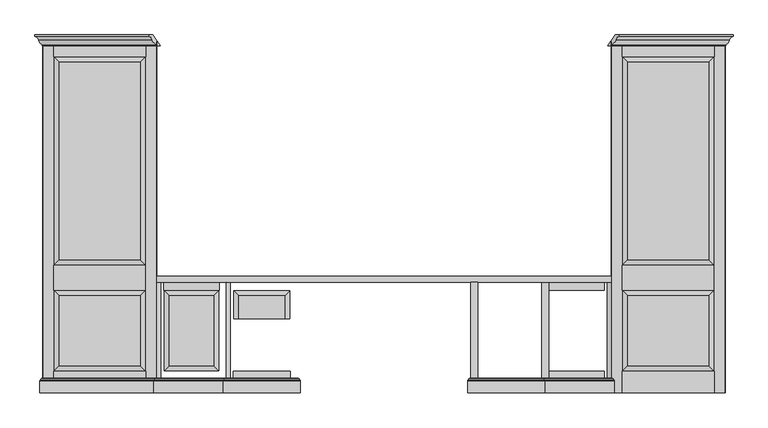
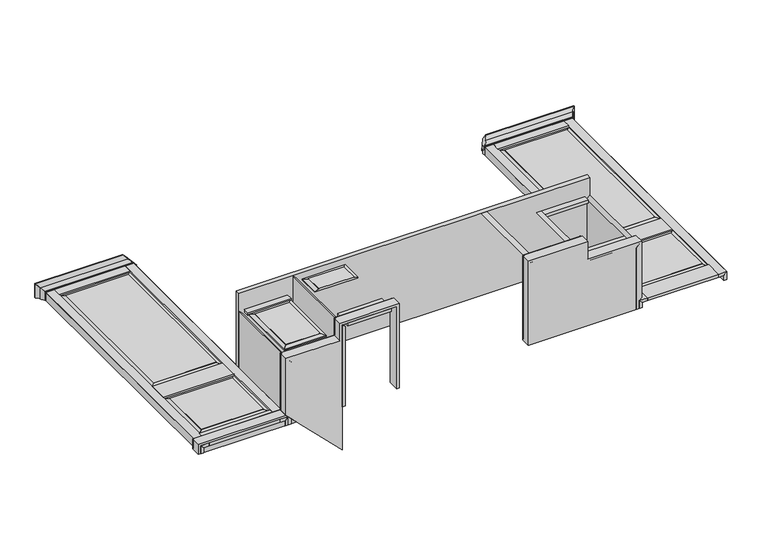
"""IFC4 building model written with IfcOpenShell, lengths in millimetres: proxy geometry, CCN^BRIGHTON_L2-C STEPPED WALL-SOLID ASSEMBLY."""

from ifc_helpers import new_model, si_unit, frame, origin, place, context, project, spatial, polyline, circle_curve, ellipse_curve, outline, extrude, faceted_brep, source, transform, mapped, element, save
from ifc_brep_helpers import plane_surface, cylinder_surface, revolved_surface, advanced_brep


def generic_models_a89a7235(model_context):
    return source(origin(), model_context, "Body", "SolidModel", [
        advanced_brep(
        [(655.8611209, -1648.3762284, -442.4536526), (655.8611209, -1648.3762284, -1534.6536526), (205.0111209, -1648.3762284, -1083.8036526), (205.0111209, -1648.3762284, -588.5036526), (649.5111209, -1648.3762284, -588.5036526), (649.5111209, -1648.3762284, -436.1036526), (1113.0611209, -1648.3762284, -436.1036526), (1113.0611209, -1648.3762284, -1160.0036526), (1106.7111209, -1648.3762284, -1160.0036526), (1106.7111209, -1648.3762284, -442.4536526), (655.8611209, -1743.6262284, -1534.6536526), (192.3111209, -1743.6262284, -1071.1036526), (192.3111209, -1664.2512284, -1071.1036526), (198.6611209, -1657.9012284, -1077.4536526), (205.0111209, -1651.5512284, -1083.8036526), (192.3111209, -1664.2512284, -575.8036526), (198.6611209, -1657.9012284, -582.1536526), (192.3111209, -1743.6262284, -575.8036526), (655.8611209, -1743.6262284, -442.4536526), (1106.7111209, -1743.6262284, -442.4536526), (1106.7111209, -1743.6262284, -1160.0036526), (1125.7611209, -1743.6262284, -1160.0036526), (1125.7611209, -1743.6262284, -423.4036526), (636.8111209, -1743.6262284, -423.4036526), (636.8111209, -1743.6262284, -575.8036526), (1113.0611209, -1651.5512284, -436.1036526), (1113.0611209, -1651.5512284, -1160.0036526), (1119.4111209, -1657.9012284, -429.7536526), (1119.4111209, -1657.9012284, -1160.0036526), (1125.7611209, -1664.2512284, -423.4036526), (1125.7611209, -1664.2512284, -1160.0036526), (649.5111209, -1651.5512284, -436.1036526), (643.1611209, -1657.9012284, -429.7536526), (636.8111209, -1664.2512284, -423.4036526), (649.5111209, -1651.5512284, -588.5036526), (643.1611209, -1657.9012284, -582.1536526), (636.8111209, -1664.2512284, -575.8036526), (205.0111209, -1651.5512284, -588.5036526)],
        [
            (0, 1),
            (1, 2),
            (2, 3),
            (3, 4),
            (4, 5),
            (5, 6),
            (6, 7),
            (7, 8),
            (8, 9),
            (9, 0),
            (1, 10),
            (10, 11),
            (11, 12),
            (12, 13, ellipse_curve(frame((192.3111209, -1657.9012284, -1071.1036526), z_axis=(0.7071067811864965, 0.0, 0.7071067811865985), x_axis=(-0.7071067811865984, 0.0, 0.7071067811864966)), 8.9802561, 6.35)),
            (13, 14, ellipse_curve(frame((205.0111209, -1657.9012284, -1083.8036526), z_axis=(-0.7071067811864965, 0.0, -0.7071067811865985), x_axis=(-0.7071067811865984, 0.0, 0.7071067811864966)), 8.9802561, 6.35)),
            (14, 2),
            (12, 15),
            (15, 16, ellipse_curve(frame((192.3111209, -1657.9012284, -575.8036526), z_axis=(0.7071067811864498, 0.0, 0.7071067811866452), x_axis=(-0.707106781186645, 0.0, 0.70710678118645)), 8.9802561, 6.35)),
            (16, 13),
            (11, 17),
            (17, 15),
            (10, 18),
            (18, 19),
            (19, 20),
            (20, 21),
            (21, 22),
            (22, 23),
            (23, 24),
            (24, 17),
            (6, 25),
            (25, 26),
            (26, 7),
            (25, 27, ellipse_curve(frame((1113.0611209, -1657.9012284, -436.1036526), z_axis=(0.7071067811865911, 0.0, -0.7071067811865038), x_axis=(-0.7071067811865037, 0.0, -0.7071067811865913)), 8.9802561, 6.35)),
            (27, 28),
            (28, 26, circle_curve(frame((1113.0611209, -1657.9012284, -1160.0036526), z_axis=(0.0, 0.0, 1.0), x_axis=(-1.0, 0.0, 0.0)), 6.35)),
            (27, 29, ellipse_curve(frame((1125.7611209, -1657.9012284, -423.4036526), z_axis=(-0.7071067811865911, 0.0, 0.7071067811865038), x_axis=(-0.7071067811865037, 0.0, -0.7071067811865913)), 8.9802561, 6.35)),
            (29, 30),
            (30, 28, circle_curve(frame((1125.7611209, -1657.9012284, -1160.0036526), z_axis=(0.0, 0.0, -1.0), x_axis=(-1.0, 0.0, 0.0)), 6.35)),
            (5, 31),
            (31, 25),
            (31, 32, ellipse_curve(frame((649.5111209, -1657.9012284, -436.1036526), z_axis=(0.7071067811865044, 0.0, 0.7071067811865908), x_axis=(0.7071067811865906, 0.0, -0.7071067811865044)), 8.9802561, 6.35)),
            (32, 27),
            (32, 33, ellipse_curve(frame((636.8111209, -1657.9012284, -423.4036526), z_axis=(-0.7071067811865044, 0.0, -0.7071067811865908), x_axis=(0.7071067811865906, 0.0, -0.7071067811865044)), 8.9802561, 6.35)),
            (33, 29),
            (4, 34),
            (34, 31),
            (34, 35, ellipse_curve(frame((649.5111209, -1657.9012284, -588.5036526), z_axis=(0.70710678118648, 0.0, 0.7071067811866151), x_axis=(-0.7071067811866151, 0.0, 0.70710678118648)), 8.9802561, 6.35)),
            (35, 32),
            (35, 36, ellipse_curve(frame((636.8111209, -1657.9012284, -575.8036526), z_axis=(-0.70710678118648, 0.0, -0.7071067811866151), x_axis=(-0.7071067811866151, 0.0, 0.70710678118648)), 8.9802561, 6.35)),
            (36, 33),
            (3, 37),
            (37, 34),
            (37, 16, ellipse_curve(frame((205.0111209, -1657.9012284, -588.5036526), z_axis=(0.7071067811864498, 0.0, 0.7071067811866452), x_axis=(0.7071067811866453, 0.0, -0.7071067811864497)), 8.9802561, 6.35)),
            (16, 35),
            (15, 36),
            (14, 37),
            (30, 21),
            (20, 8),
            (29, 22),
            (33, 23),
            (36, 24),
            (0, 18),
            (9, 19),
        ],
        [
            plane_surface(frame((659.0361209, -1648.3762284, -791.7036526), z_axis=(0.0, 1.0, 0.0), x_axis=(0.0, 0.0, 1.0))),
            plane_surface(frame((201.8361209, -1743.6262284, -1080.6286526), z_axis=(-0.7071067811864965, 0.0, -0.7071067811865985), x_axis=(-0.7071067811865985, 0.0, 0.7071067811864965))),
            revolved_surface(polyline([(198.6611209, -1657.9012284, -569.4536526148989), (198.6611209, -1657.9012284, -1077.4536526)]), (192.3111209, -1657.9012284, -1090.1536526), (0.0, 0.0, 1.0)),
            plane_surface(frame((192.3111209, -1743.6262284, -1090.1536526), z_axis=(-1.0, 0.0, 0.0), x_axis=(0.0, 0.0, 1.0))),
            plane_surface(frame((659.0361209, -1743.6262284, -791.7036526), z_axis=(0.0, -1.0, 0.0), x_axis=(0.0, 0.0, -1.0))),
            plane_surface(frame((1113.0611209, -1651.5512284, -436.1036526), z_axis=(1.0, 0.0, 0.0), x_axis=(0.0, 1.0, 0.0))),
            cylinder_surface(frame((1113.0611209, -1657.9012284, -436.1036526), z_axis=(0.0, 0.0, -1.0), x_axis=(-1.0, 0.0, 0.0)), 6.35),
            revolved_surface(polyline([(1119.4111209, -1657.9012284, -1160.0036526), (1119.4111209, -1657.9012284, -417.0536526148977)]), (1125.7611209, -1657.9012284, -423.4036526), (0.0, 0.0, -1.0)),
            plane_surface(frame((649.5111209, -1651.5512284, -436.1036526), z_axis=(0.0, 0.0, 1.0), x_axis=(0.0, 1.0, 0.0))),
            cylinder_surface(frame((649.5111209, -1657.9012284, -436.1036526), z_axis=(1.0, 0.0, 0.0), x_axis=(0.0, 0.0, -1.0)), 6.35),
            revolved_surface(polyline([(1132.1111208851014, -1657.9012284, -429.7536526), (630.4611209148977, -1657.9012284, -429.7536526)]), (636.8111209, -1657.9012284, -423.4036526), (1.0, 0.0, 0.0)),
            plane_surface(frame((649.5111209, -1651.5512284, -588.5036526), z_axis=(-1.0, 0.0, 0.0), x_axis=(0.0, 1.0, 0.0))),
            cylinder_surface(frame((649.5111209, -1657.9012284, -588.5036526), z_axis=(0.0, 0.0, 1.0), x_axis=(1.0, 0.0, 0.0)), 6.35),
            revolved_surface(polyline([(643.1611209, -1657.9012284, -417.0536526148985), (643.1611209, -1657.9012284, -582.1536526)]), (636.8111209, -1657.9012284, -575.8036526), (0.0, 0.0, 1.0)),
            plane_surface(frame((205.0111209, -1651.5512284, -588.5036526), z_axis=(0.0, 0.0, 1.0), x_axis=(0.0, 1.0, 0.0))),
            cylinder_surface(frame((205.0111209, -1657.9012284, -588.5036526), z_axis=(1.0, 0.0, 0.0), x_axis=(0.0, 0.0, -1.0)), 6.35),
            revolved_surface(polyline([(643.1611209, -1657.9012284, -582.1536526), (185.96112091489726, -1657.9012284, -582.1536526)]), (192.3111209, -1657.9012284, -575.8036526), (1.0, 0.0, 0.0)),
            plane_surface(frame((205.0111209, -1651.5512284, -1090.1536526), z_axis=(-1.0, 0.0, 0.0), x_axis=(0.0, 1.0, 0.0))),
            cylinder_surface(frame((205.0111209, -1657.9012284, -1090.1536526), z_axis=(0.0, 0.0, 1.0), x_axis=(1.0, 0.0, 0.0)), 6.35),
            plane_surface(frame((1125.7611209, -1743.6262284, -1160.0036526), z_axis=(0.0, 0.0, -1.0), x_axis=(-1.0, 0.0, 0.0))),
            plane_surface(frame((1125.7611209, -1743.6262284, -423.4036526), z_axis=(1.0, 0.0, 0.0), x_axis=(0.0, 0.0, -1.0))),
            plane_surface(frame((636.8111209, -1743.6262284, -423.4036526), z_axis=(0.0, 0.0, 1.0), x_axis=(1.0, 0.0, 0.0))),
            plane_surface(frame((636.8111209, -1743.6262284, -575.8036526), z_axis=(-1.0, 0.0, 0.0), x_axis=(0.0, 0.0, 1.0))),
            plane_surface(frame((192.3111209, -1743.6262284, -575.8036526), z_axis=(0.0, 0.0, 1.0), x_axis=(1.0, 0.0, 0.0))),
            plane_surface(frame((655.8611209, -1743.6262284, -442.4536526), z_axis=(1.0, 0.0, 0.0), x_axis=(0.0, 0.0, -1.0))),
            plane_surface(frame((1106.7111209, -1743.6262284, -442.4536526), z_axis=(0.0, 0.0, -1.0), x_axis=(-1.0, 0.0, 0.0))),
            plane_surface(frame((1106.7111209, -1743.6262284, -1160.0036526), z_axis=(-1.0, 0.0, 0.0), x_axis=(0.0, 0.0, 1.0))),
        ],
        [
            (0, [[1, 2, 3, 4, 5, 6, 7, 8, 9, 10]]),
            (1, [[-2, 11, 12, 13, 14, 15, 16]]),
            (2, [[-14, 17, 18, 19]]),
            (3, [[-13, 20, 21, -17]]),
            (4, [[22, 23, 24, 25, 26, 27, 28, 29, -20, -12]]),
            (5, [[30, 31, 32, -7]]),
            (6, [[33, 34, 35, -31]]),
            (7, [[36, 37, 38, -34]]),
            (8, [[39, 40, -30, -6]]),
            (9, [[41, 42, -33, -40]]),
            (10, [[43, 44, -36, -42]]),
            (11, [[45, 46, -39, -5]]),
            (12, [[47, 48, -41, -46]]),
            (13, [[49, 50, -43, -48]]),
            (14, [[51, 52, -45, -4]]),
            (15, [[53, 54, -47, -52]]),
            (16, [[-18, 55, -49, -54]]),
            (17, [[-16, 56, -51, -3]]),
            (18, [[-15, -19, -53, -56]]),
            (19, [[-32, -35, -38, 57, -25, 58, -8]]),
            (20, [[-37, 59, -26, -57]]),
            (21, [[-44, 60, -27, -59]]),
            (22, [[-50, 61, -28, -60]]),
            (23, [[-55, -21, -29, -61]]),
            (24, [[-1, 62, -22, -11]]),
            (25, [[-23, -62, -10, 63]]),
            (26, [[-24, -63, -9, -58]]),
        ],
    ),
        advanced_brep(
        [(3119.6611209, -1657.9012284, -1077.4536526), (3126.0111209, -1664.2512284, -1071.1036526), (3126.0111209, -1743.6262284, -1071.1036526), (3106.9611209, -1743.6262284, -1090.1536526), (3106.9611209, -1648.3762284, -1090.1536526), (3113.3111209, -1648.3762284, -1083.8036526), (3113.3111209, -1651.5512284, -1083.8036526), (3113.3111209, -1651.5512284, -588.5036526), (3119.6611209, -1657.9012284, -582.1536526), (3113.3111209, -1648.3762284, -588.5036526), (3106.9611209, -1648.3762284, -1160.0036526), (2205.2611209, -1648.3762284, -1160.0036526), (2205.2611209, -1648.3762284, -436.1036526), (2668.8111209, -1648.3762284, -436.1036526), (2668.8111209, -1648.3762284, -588.5036526), (3126.0111209, -1664.2512284, -575.8036526), (2668.8111209, -1651.5512284, -588.5036526), (2675.1611209, -1657.9012284, -582.1536526), (2681.5111209, -1664.2512284, -575.8036526), (2668.8111209, -1651.5512284, -436.1036526), (2675.1611209, -1657.9012284, -429.7536526), (2681.5111209, -1664.2512284, -423.4036526), (2205.2611209, -1651.5512284, -436.1036526), (2198.9111209, -1657.9012284, -429.7536526), (2192.5611209, -1664.2512284, -423.4036526), (2205.2611209, -1651.5512284, -1160.0036526), (2198.9111209, -1657.9012284, -1160.0036526), (2192.5611209, -1664.2512284, -1160.0036526), (3126.0111209, -1743.6262284, -575.8036526), (2681.5111209, -1743.6262284, -575.8036526), (2681.5111209, -1743.6262284, -423.4036526), (2192.5611209, -1743.6262284, -423.4036526), (2192.5611209, -1743.6262284, -1160.0036526), (3106.9611209, -1743.6262284, -1160.0036526)],
        [
            (0, 1, ellipse_curve(frame((3126.0111209, -1657.9012284, -1071.1036526), z_axis=(-0.7071067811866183, 0.0, 0.7071067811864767), x_axis=(-0.7071067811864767, 0.0, -0.7071067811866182)), 8.9802561, 6.35)),
            (1, 2),
            (2, 3),
            (3, 4),
            (4, 5),
            (5, 6),
            (6, 0, ellipse_curve(frame((3113.3111209, -1657.9012284, -1083.8036526), z_axis=(0.7071067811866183, 0.0, -0.7071067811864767), x_axis=(-0.7071067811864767, 0.0, -0.7071067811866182)), 8.9802561, 6.35)),
            (6, 7),
            (7, 8, ellipse_curve(frame((3113.3111209, -1657.9012284, -588.5036526), z_axis=(0.7071067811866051, 0.0, -0.7071067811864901), x_axis=(-0.7071067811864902, 0.0, -0.7071067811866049)), 8.9802561, 6.35)),
            (8, 0),
            (5, 9),
            (9, 7),
            (4, 10),
            (10, 11),
            (11, 12),
            (12, 13),
            (13, 14),
            (14, 9),
            (8, 15, ellipse_curve(frame((3126.0111209, -1657.9012284, -575.8036526), z_axis=(-0.7071067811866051, 0.0, 0.7071067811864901), x_axis=(-0.7071067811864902, 0.0, -0.7071067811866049)), 8.9802561, 6.35)),
            (15, 1),
            (16, 17, ellipse_curve(frame((2668.8111209, -1657.9012284, -588.5036526), z_axis=(0.7071067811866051, 0.0, -0.7071067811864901), x_axis=(0.7071067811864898, 0.0, 0.7071067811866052)), 8.9802561, 6.35)),
            (17, 8),
            (7, 16),
            (17, 18, ellipse_curve(frame((2681.5111209, -1657.9012284, -575.8036526), z_axis=(-0.7071067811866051, 0.0, 0.7071067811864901), x_axis=(0.7071067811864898, 0.0, 0.7071067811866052)), 8.9802561, 6.35)),
            (18, 15),
            (14, 16),
            (19, 20, ellipse_curve(frame((2668.8111209, -1657.9012284, -436.1036526), z_axis=(0.7071067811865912, 0.0, -0.7071067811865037), x_axis=(-0.7071067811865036, 0.0, -0.7071067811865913)), 8.9802561, 6.35)),
            (20, 17),
            (16, 19),
            (20, 21, ellipse_curve(frame((2681.5111209, -1657.9012284, -423.4036526), z_axis=(-0.7071067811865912, 0.0, 0.7071067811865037), x_axis=(-0.7071067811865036, 0.0, -0.7071067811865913)), 8.9802561, 6.35)),
            (21, 18),
            (13, 19),
            (22, 23, ellipse_curve(frame((2205.2611209, -1657.9012284, -436.1036526), z_axis=(0.7071067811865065, 0.0, 0.7071067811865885), x_axis=(0.7071067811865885, 0.0, -0.7071067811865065)), 8.9802561, 6.35)),
            (23, 20),
            (19, 22),
            (23, 24, ellipse_curve(frame((2192.5611209, -1657.9012284, -423.4036526), z_axis=(-0.7071067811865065, 0.0, -0.7071067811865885), x_axis=(0.7071067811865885, 0.0, -0.7071067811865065)), 8.9802561, 6.35)),
            (24, 21),
            (12, 22),
            (25, 26, circle_curve(frame((2205.2611209, -1657.9012284, -1160.0036526), z_axis=(0.0, 0.0, 1.0), x_axis=(1.0, 0.0, 0.0)), 6.35)),
            (26, 23),
            (22, 25),
            (26, 27, circle_curve(frame((2192.5611209, -1657.9012284, -1160.0036526), z_axis=(0.0, 0.0, -1.0), x_axis=(1.0, 0.0, 0.0)), 6.35)),
            (27, 24),
            (11, 25),
            (15, 28),
            (28, 2),
            (18, 29),
            (29, 28),
            (21, 30),
            (30, 29),
            (24, 31),
            (31, 30),
            (27, 32),
            (32, 31),
            (10, 33),
            (33, 32),
            (3, 33),
        ],
        [
            plane_surface(frame((3116.4861209, -1743.6262284, -1080.6286526), z_axis=(0.7071067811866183, 0.0, -0.7071067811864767), x_axis=(-0.7071067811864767, 0.0, -0.7071067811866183))),
            cylinder_surface(frame((3113.3111209, -1657.9012284, -588.5036526), z_axis=(0.0, 0.0, -1.0), x_axis=(-1.0, 0.0, 0.0)), 6.35),
            plane_surface(frame((3113.3111209, -1651.5512284, -588.5036526), z_axis=(1.0, 0.0, 0.0), x_axis=(0.0, 1.0, 0.0))),
            plane_surface(frame((2659.2861209, -1648.3762284, -791.7036526), z_axis=(0.0, 1.0, 0.0), x_axis=(0.0, 0.0, 1.0))),
            revolved_surface(polyline([(3119.6611209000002, -1657.9012284, -1077.4536526), (3119.6611209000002, -1657.9012284, -569.4536526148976)]), (3126.0111209, -1657.9012284, -575.8036526), (0.0, 0.0, -1.0)),
            cylinder_surface(frame((2668.8111209, -1657.9012284, -588.5036526), z_axis=(1.0, 0.0, 0.0), x_axis=(0.0, 0.0, -1.0)), 6.35),
            revolved_surface(polyline([(3132.3611208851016, -1657.9012284, -582.1536526), (2675.1611209, -1657.9012284, -582.1536526)]), (2681.5111209, -1657.9012284, -575.8036526), (1.0, 0.0, 0.0)),
            plane_surface(frame((2668.8111209, -1651.5512284, -588.5036526), z_axis=(0.0, 0.0, 1.0), x_axis=(0.0, 1.0, 0.0))),
            cylinder_surface(frame((2668.8111209, -1657.9012284, -436.1036526), z_axis=(0.0, 0.0, -1.0), x_axis=(-1.0, 0.0, 0.0)), 6.35),
            revolved_surface(polyline([(2675.1611209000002, -1657.9012284, -582.1536526), (2675.1611209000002, -1657.9012284, -417.0536526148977)]), (2681.5111209, -1657.9012284, -423.4036526), (0.0, 0.0, -1.0)),
            plane_surface(frame((2668.8111209, -1651.5512284, -436.1036526), z_axis=(1.0, 0.0, 0.0), x_axis=(0.0, 1.0, 0.0))),
            cylinder_surface(frame((2205.2611209, -1657.9012284, -436.1036526), z_axis=(1.0, 0.0, 0.0), x_axis=(0.0, 0.0, -1.0)), 6.35),
            revolved_surface(polyline([(2687.8611208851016, -1657.9012284, -429.7536526), (2186.2111209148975, -1657.9012284, -429.7536526)]), (2192.5611209, -1657.9012284, -423.4036526), (1.0, 0.0, 0.0)),
            plane_surface(frame((2205.2611209, -1651.5512284, -436.1036526), z_axis=(0.0, 0.0, 1.0), x_axis=(0.0, 1.0, 0.0))),
            cylinder_surface(frame((2205.2611209, -1657.9012284, -1160.0036526), z_axis=(0.0, 0.0, 1.0), x_axis=(1.0, 0.0, 0.0)), 6.35),
            revolved_surface(polyline([(2198.9111209, -1657.9012284, -417.0536526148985), (2198.9111209, -1657.9012284, -1160.0036526)]), (2192.5611209, -1657.9012284, -1160.0036526), (0.0, 0.0, 1.0)),
            plane_surface(frame((2205.2611209, -1651.5512284, -1160.0036526), z_axis=(-1.0, 0.0, 0.0), x_axis=(0.0, 1.0, 0.0))),
            plane_surface(frame((3126.0111209, -1743.6262284, -575.8036526), z_axis=(1.0, 0.0, 0.0), x_axis=(0.0, 0.0, -1.0))),
            plane_surface(frame((2681.5111209, -1743.6262284, -575.8036526), z_axis=(0.0, 0.0, 1.0), x_axis=(1.0, 0.0, 0.0))),
            plane_surface(frame((2681.5111209, -1743.6262284, -423.4036526), z_axis=(1.0, 0.0, 0.0), x_axis=(0.0, 0.0, -1.0))),
            plane_surface(frame((2192.5611209, -1743.6262284, -423.4036526), z_axis=(0.0, 0.0, 1.0), x_axis=(1.0, 0.0, 0.0))),
            plane_surface(frame((2192.5611209, -1743.6262284, -1160.0036526), z_axis=(-1.0, 0.0, 0.0), x_axis=(0.0, 0.0, 1.0))),
            plane_surface(frame((3106.9611209, -1743.6262284, -1160.0036526), z_axis=(0.0, 0.0, -1.0), x_axis=(-1.0, 0.0, 0.0))),
            plane_surface(frame((3106.9611209, -1743.6262284, -1090.1536526), z_axis=(1.0, 0.0, 0.0), x_axis=(0.0, 0.0, -1.0))),
            plane_surface(frame((2659.2861209, -1743.6262284, -791.7036526), z_axis=(0.0, -1.0, 0.0), x_axis=(0.0, 0.0, -1.0))),
        ],
        [
            (0, [[1, 2, 3, 4, 5, 6, 7]]),
            (1, [[-7, 8, 9, 10]]),
            (2, [[-6, 11, 12, -8]]),
            (3, [[-5, 13, 14, 15, 16, 17, 18, -11]]),
            (4, [[-1, -10, 19, 20]]),
            (5, [[21, 22, -9, 23]]),
            (6, [[24, 25, -19, -22]]),
            (7, [[26, -23, -12, -18]]),
            (8, [[27, 28, -21, 29]]),
            (9, [[30, 31, -24, -28]]),
            (10, [[32, -29, -26, -17]]),
            (11, [[33, 34, -27, 35]]),
            (12, [[36, 37, -30, -34]]),
            (13, [[38, -35, -32, -16]]),
            (14, [[39, 40, -33, 41]]),
            (15, [[42, 43, -36, -40]]),
            (16, [[44, -41, -38, -15]]),
            (17, [[-2, -20, 45, 46]]),
            (18, [[-25, 47, 48, -45]]),
            (19, [[-31, 49, 50, -47]]),
            (20, [[-37, 51, 52, -49]]),
            (21, [[-43, 53, 54, -51]]),
            (22, [[-44, -14, 55, 56, -53, -42, -39]]),
            (23, [[57, -55, -13, -4]]),
            (24, [[-3, -46, -48, -50, -52, -54, -56, -57]]),
        ],
    ),
        extrude(outline(polyline([(255.8111209, -1038.7762284), (611.4111209, -1038.7762284), (611.4111209, -1089.5762284), (255.8111209, -1089.5762284), (255.8111209, -1038.7762284)])), frame((0.0, 0.0, -620.2536526), z_axis=(0.0, 0.0, 1.0), x_axis=(1.0, 0.0, 0.0)), (0.0, 0.0, 1.0), 25.4),
        extrude(outline(polyline([(1062.2611209, -1743.6262284), (700.3111209, -1743.6262284), (700.3111209, -1603.9262284), (1062.2611209, -1603.9262284), (1062.2611209, -1743.6262284)])), frame((0.0, 0.0, -467.8536526), z_axis=(0.0, 0.0, 1.0), x_axis=(1.0, 0.0, 0.0)), (0.0, 0.0, 1.0), 25.4),
        extrude(outline(polyline([(-594.8536526, 2662.4611209), (-620.2536526, 2687.8611209), (-620.2536526, 2706.9111209), (-594.8536526, 2706.9111209), (-594.8536526, 2662.4611209)])), frame((0.0, -1743.6262284, 0.0), z_axis=(0.0, 1.0, 0.0), x_axis=(0.0, 0.0, 1.0)), (0.0, 0.0, 1.0), 704.85),
        extrude(outline(polyline([(-594.8536526, 3106.9611209), (-620.2536526, 3081.5611209), (-1160.0036526, 3081.5611209), (-1160.0036526, 3106.9611209), (-594.8536526, 3106.9611209)])), frame((0.0, -1743.6262284, 0.0), z_axis=(0.0, 1.0, 0.0), x_axis=(0.0, 0.0, 1.0)), (0.0, 0.0, 1.0), 704.85),
        extrude(outline(polyline([(-467.8536526, 2237.0111209), (-467.8536526, 2256.0611209), (-442.4536526, 2256.0611209), (-442.4536526, 2211.6111209), (-467.8536526, 2237.0111209)])), frame((0.0, -1743.6262284, 0.0), z_axis=(0.0, 1.0, 0.0), x_axis=(0.0, 0.0, 1.0)), (0.0, 0.0, 1.0), 704.85),
        extrude(outline(polyline([(2706.9111209, -1038.7762284), (3062.5111209, -1038.7762284), (3062.5111209, -1089.5762284), (2706.9111209, -1089.5762284), (2706.9111209, -1038.7762284)])), frame((0.0, 0.0, -620.2536526), z_axis=(0.0, 0.0, 1.0), x_axis=(1.0, 0.0, 0.0)), (0.0, 0.0, 1.0), 25.4),
        extrude(outline(polyline([(3062.5111209, -1743.6262284), (2706.9111209, -1743.6262284), (2706.9111209, -1603.9262284), (3062.5111209, -1603.9262284), (3062.5111209, -1743.6262284)])), frame((0.0, 0.0, -620.2536526), z_axis=(0.0, 0.0, 1.0), x_axis=(1.0, 0.0, 0.0)), (0.0, 0.0, 1.0), 25.4),
        extrude(outline(polyline([(211.3611209, -1038.7762284), (211.3611209, -1000.6762284), (3106.9611209, -1000.6762284), (3106.9611209, -1038.7762284), (211.3611209, -1038.7762284)])), frame((0.0, 0.0, -1160.0036526), z_axis=(0.0, 0.0, 1.0), x_axis=(1.0, 0.0, 0.0)), (0.0, 0.0, 1.0), 717.55),
        extrude(outline(polyline([(-620.2536526, 236.7611209), (-594.8536526, 211.3611209), (-1160.0036526, 211.3611209), (-1160.0036526, 236.7611209), (-620.2536526, 236.7611209)])), frame((0.0, -1743.6262284, 0.0), z_axis=(0.0, 1.0, 0.0), x_axis=(0.0, 0.0, 1.0)), (0.0, 0.0, 1.0), 704.85),
        faceted_brep([(735.2361209, -1124.5012284, -445.6286526), (703.4861209, -1092.7512284, -454.1360394), (703.4861209, -1270.5512284, -454.1360394), (735.2361209, -1270.5512284, -445.6286526), (735.2361209, -1124.5012284, -442.4536526), (735.2361209, -1270.5512284, -442.4536526), (1027.3361209, -1124.5012284, -445.6286526), (1059.0861209, -1092.7512284, -454.1360394), (1027.3361209, -1124.5012284, -442.4536526), (1027.3361209, -1270.5512284, -445.6286526), (1059.0861209, -1270.5512284, -454.1360394), (1027.3361209, -1270.5512284, -442.4536526), (1059.0861209, -1270.5512284, -461.5036526), (1059.0861209, -1092.7512284, -461.5036526), (703.4861209, -1092.7512284, -461.5036526), (703.4861209, -1270.5512284, -461.5036526)], [[[0, 1, 2, 3]], [[4, 0, 3, 5]], [[6, 7, 1, 0]], [[8, 6, 0, 4]], [[9, 10, 7, 6]], [[11, 9, 6, 8]], [[11, 8, 4, 5]], [[7, 10, 12, 13]], [[1, 7, 13, 14]], [[2, 1, 14, 15]], [[9, 11, 5, 3, 2, 15, 12, 10]], [[12, 15, 14, 13]]]),
        extrude(outline(polyline([(-467.8536526, 681.2611209), (-442.4536526, 655.8611209), (-1160.0036526, 655.8611209), (-1160.0036526, 681.2611209), (-467.8536526, 681.2611209)])), frame((0.0, -1743.6262284, 0.0), z_axis=(0.0, 1.0, 0.0), x_axis=(0.0, 0.0, 1.0)), (0.0, 0.0, 1.0), 704.85),
        faceted_brep([(576.4861209, -1569.0012284, -594.8536526), (576.4861209, -1569.0012284, -598.0286526), (576.4861209, -1124.5012284, -598.0286526), (576.4861209, -1124.5012284, -594.8536526), (608.2361209, -1600.7512284, -606.5360394), (608.2361209, -1092.7512284, -606.5360394), (290.7361209, -1569.0012284, -594.8536526), (290.7361209, -1569.0012284, -598.0286526), (258.9861209, -1600.7512284, -606.5360394), (290.7361209, -1124.5012284, -594.8536526), (290.7361209, -1124.5012284, -598.0286526), (258.9861209, -1092.7512284, -606.5360394), (608.2361209, -1092.7512284, -613.9036526), (258.9861209, -1092.7512284, -613.9036526), (608.2361209, -1600.7512284, -613.9036526), (258.9861209, -1600.7512284, -613.9036526)], [[[0, 1, 2, 3]], [[1, 4, 5, 2]], [[6, 7, 1, 0]], [[7, 8, 4, 1]], [[9, 10, 7, 6]], [[10, 11, 8, 7]], [[2, 5, 11, 10]], [[3, 2, 10, 9]], [[11, 5, 12, 13]], [[5, 4, 14, 12]], [[8, 11, 13, 15]], [[4, 8, 15, 14]], [[0, 3, 9, 6]], [[14, 15, 13, 12]]]),
        extrude(outline(polyline([(-1160.0036526, 185.9611209), (-1160.0036526, 211.3611209), (-1090.1536526, 211.3611209), (-1115.5536526, 185.9611209), (-1160.0036526, 185.9611209)])), frame((0.0, -1743.6262284, 0.0), z_axis=(0.0, 1.0, 0.0), x_axis=(0.0, 0.0, 1.0)), (0.0, 0.0, 1.0), 2209.8),
        extrude(outline(polyline([(-442.6888791, 396.3237716), (-442.6888791, 466.1737716), (141.5111209, 466.1737716), (141.5111209, 396.3237716), (-442.6888791, 396.3237716)])), frame((0.0, 0.0, -1115.5536526), z_axis=(0.0, 0.0, 1.0), x_axis=(1.0, 0.0, 0.0)), (0.0, 0.0, 1.0), 25.4),
        faceted_brep([(106.5861209, -1569.0012284, -1090.1536526), (106.5861209, -1569.0012284, -1093.3286526), (106.5861209, -1124.5012284, -1093.3286526), (106.5861209, -1124.5012284, -1090.1536526), (138.3361209, -1600.7512284, -1101.8360394), (138.3361209, -1092.7512284, -1101.8360394), (138.3361209, -1600.7512284, -1109.2036526), (138.3361209, -1092.7512284, -1109.2036526), (-407.7638791, -1569.0012284, -1090.1536526), (-407.7638791, -1569.0012284, -1093.3286526), (-439.5138791, -1600.7512284, -1101.8360394), (-439.5138791, -1600.7512284, -1109.2036526), (141.5111209, -1089.5762284, -1109.2036526), (-442.6888791, -1089.5762284, -1109.2036526), (-442.6888791, -1603.9262284, -1109.2036526), (141.5111209, -1603.9262284, -1109.2036526), (-439.5138791, -1092.7512284, -1109.2036526), (-407.7638791, -1124.5012284, -1090.1536526), (-407.7638791, -1124.5012284, -1093.3286526), (-439.5138791, -1092.7512284, -1101.8360394), (141.5111209, -1603.9262284, -1115.5536526), (141.5111209, -1089.5762284, -1115.5536526), (-442.6888791, -1603.9262284, -1115.5536526), (-442.6888791, -1089.5762284, -1115.5536526)], [[[0, 1, 2, 3]], [[1, 4, 5, 2]], [[4, 6, 7, 5]], [[8, 9, 1, 0]], [[9, 10, 4, 1]], [[10, 11, 6, 4]], [[12, 13, 14, 15], [11, 16, 7, 6]], [[17, 18, 9, 8]], [[18, 19, 10, 9]], [[19, 16, 11, 10]], [[3, 2, 18, 17]], [[2, 5, 19, 18]], [[5, 7, 16, 19]], [[12, 15, 20, 21]], [[15, 14, 22, 20]], [[13, 12, 21, 23]], [[14, 13, 23, 22]], [[0, 3, 17, 8]], [[20, 22, 23, 21]]]),
        extrude(outline(polyline([(-442.6888791, -1743.6262284), (-442.6888791, -1603.9262284), (141.5111209, -1603.9262284), (141.5111209, -1743.6262284), (-442.6888791, -1743.6262284)])), frame((0.0, 0.0, -1115.5536526), z_axis=(0.0, 0.0, 1.0), x_axis=(1.0, 0.0, 0.0)), (0.0, 0.0, 1.0), 25.4),
        extrude(outline(polyline([(211.3611209, 466.1737716), (-512.5388791, 466.1737716), (-512.5388791, 491.5737716), (211.3611209, 491.5737716), (211.3611209, 466.1737716)])), frame((0.0, 0.0, -1160.0036526), z_axis=(0.0, 0.0, 1.0), x_axis=(1.0, 0.0, 0.0)), (0.0, 0.0, 1.0), 69.85),
        faceted_brep([(106.5861209, -895.9012284, -1090.1536526), (106.5861209, -895.9012284, -1093.3286526), (106.5861209, 361.3987716, -1093.3286526), (106.5861209, 361.3987716, -1090.1536526), (138.3361209, -927.6512284, -1101.8360394), (138.3361209, 393.1487716, -1101.8360394), (138.3361209, -927.6512284, -1109.2036526), (138.3361209, 393.1487716, -1109.2036526), (-407.7638791, -895.9012284, -1090.1536526), (-407.7638791, -895.9012284, -1093.3286526), (-439.5138791, -927.6512284, -1101.8360394), (-439.5138791, -927.6512284, -1109.2036526), (141.5111209, 396.3237716, -1109.2036526), (-442.6888791, 396.3237716, -1109.2036526), (-442.6888791, -930.8262284, -1109.2036526), (141.5111209, -930.8262284, -1109.2036526), (-439.5138791, 393.1487716, -1109.2036526), (-407.7638791, 361.3987716, -1090.1536526), (-407.7638791, 361.3987716, -1093.3286526), (-439.5138791, 393.1487716, -1101.8360394), (141.5111209, -930.8262284, -1115.5536526), (141.5111209, 396.3237716, -1115.5536526), (-442.6888791, -930.8262284, -1115.5536526), (-442.6888791, 396.3237716, -1115.5536526)], [[[0, 1, 2, 3]], [[1, 4, 5, 2]], [[4, 6, 7, 5]], [[8, 9, 1, 0]], [[9, 10, 4, 1]], [[10, 11, 6, 4]], [[12, 13, 14, 15], [11, 16, 7, 6]], [[17, 18, 9, 8]], [[18, 19, 10, 9]], [[19, 16, 11, 10]], [[3, 2, 18, 17]], [[2, 5, 19, 18]], [[5, 7, 16, 19]], [[12, 15, 20, 21]], [[15, 14, 22, 20]], [[13, 12, 21, 23]], [[14, 13, 23, 22]], [[0, 3, 17, 8]], [[20, 22, 23, 21]]]),
        extrude(outline(polyline([(-1115.5536526, 185.9611209), (-1090.1536526, 211.3611209), (-1090.1536526, 141.5111209), (-1115.5536526, 141.5111209), (-1115.5536526, 185.9611209)])), frame((0.0, -1743.6262284, 0.0), z_axis=(0.0, 1.0, 0.0), x_axis=(0.0, 0.0, 1.0)), (0.0, 0.0, 1.0), 2209.8),
        extrude(outline(polyline([(-1160.0036526, -512.5388791), (-1160.0036526, -487.1388791), (-1115.5536526, -487.1388791), (-1090.1536526, -512.5388791), (-1160.0036526, -512.5388791)])), frame((0.0, -1743.6262284, 0.0), z_axis=(0.0, 1.0, 0.0), x_axis=(0.0, 0.0, 1.0)), (0.0, 0.0, 1.0), 2209.8),
        extrude(outline(polyline([(-442.6888791, -1089.5762284), (-442.6888791, -930.8262284), (141.5111209, -930.8262284), (141.5111209, -1089.5762284), (-442.6888791, -1089.5762284)])), frame((0.0, 0.0, -1115.5536526), z_axis=(0.0, 0.0, 1.0), x_axis=(1.0, 0.0, 0.0)), (0.0, 0.0, 1.0), 25.4),
        advanced_brep(
        [(-537.8828909, 536.0237716, -1160.0036526), (-488.9733944, 466.1737716, -1160.0036526), (-518.1014791, 466.1737716, -1160.0036526), (-518.1014791, 472.9137963, -1160.0036526), (-539.252251, 502.1175862, -1160.0036526), (-563.3388791, 528.0989716, -1160.0036526), (-563.3388791, 536.0237716, -1160.0036526), (-488.9733944, 466.1737716, -1113.7191373), (234.9266056, 466.1737716, -1113.7191373), (205.7985209, 466.1737716, -1084.5910526), (-518.1014791, 466.1737716, -1084.5910526), (186.0171091, 536.0237716, -1064.8096407), (160.5611209, 536.0237716, -1039.3536526), (160.5611209, 528.0989716, -1039.3536526), (184.647749, 502.1175862, -1063.4402806), (205.7985209, 472.9137963, -1084.5910526), (-537.8828909, 536.0237716, -1064.8096407), (-518.1014791, 472.9137963, -1084.5910526), (-539.252251, 502.1175862, -1063.4402806), (-563.3388791, 528.0989716, -1039.3536526), (-563.3388791, 536.0237716, -1039.3536526)],
        [
            (0, 1),
            (1, 2),
            (2, 3),
            (3, 4, circle_curve(frame((-490.2122791, 515.3735716, -1160.0036526), z_axis=(0.0, 0.0, -1.0), x_axis=(1.0, 0.0, 0.0)), 50.8)),
            (4, 5, circle_curve(frame((-576.03223, 492.175597, -1160.0036526), z_axis=(0.0, 0.0, 1.0), x_axis=(1.0, 0.0, 0.0)), 38.1)),
            (5, 6),
            (6, 0),
            (1, 7),
            (7, 8),
            (8, 9),
            (9, 10),
            (10, 2),
            (8, 11),
            (11, 12),
            (12, 13),
            (13, 14, ellipse_curve(frame((147.86777, 492.175597, -1026.6603017), z_axis=(-0.707106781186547, 0.0, -0.7071067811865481), x_axis=(-0.707106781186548, 0.0, 0.7071067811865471)), 53.8815367, 38.1)),
            (14, 15, ellipse_curve(frame((233.6877209, 515.3735716, -1112.4802526), z_axis=(0.707106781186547, 0.0, 0.7071067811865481), x_axis=(-0.707106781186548, 0.0, 0.7071067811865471)), 71.842049, 50.8)),
            (15, 9),
            (0, 16),
            (16, 7),
            (16, 11),
            (15, 17),
            (17, 10),
            (17, 3),
            (17, 18, ellipse_curve(frame((-490.2122791, 515.3735716, -1112.4802526), z_axis=(-0.7071067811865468, 0.0, -0.7071067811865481), x_axis=(0.7071067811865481, 0.0, -0.707106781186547)), 71.842049, 50.8)),
            (18, 4),
            (18, 19, ellipse_curve(frame((-576.03223, 492.175597, -1026.6603017), z_axis=(0.7071067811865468, 0.0, 0.7071067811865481), x_axis=(0.7071067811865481, 0.0, -0.707106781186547)), 53.8815367, 38.1)),
            (19, 5),
            (14, 18),
            (13, 19),
            (12, 20),
            (20, 19),
            (20, 6),
        ],
        [
            plane_surface(frame((-512.5388791, 491.5737716, -1160.0036526), z_axis=(0.0, 0.0, -1.0), x_axis=(-1.0, 0.0, 0.0))),
            plane_surface(frame((-175.9888791, 466.1737716, -1099.6786526), z_axis=(0.0, -1.0, 0.0), x_axis=(0.0, 0.0, -1.0))),
            plane_surface(frame((185.9611209, 491.5737716, -1064.7536526), z_axis=(0.707106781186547, 0.0, 0.7071067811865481), x_axis=(0.7071067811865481, 0.0, -0.707106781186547))),
            plane_surface(frame((-512.5388791, 499.8287716, -1090.1536526), z_axis=(0.819152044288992, 0.573576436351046, 0.0), x_axis=(-0.49754281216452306, 0.7105647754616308, 0.49754281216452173))),
            plane_surface(frame((211.3611209, 499.8287716, -1090.1536526), z_axis=(0.0, 0.5735764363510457, -0.8191520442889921), x_axis=(0.0, 0.8191520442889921, 0.5735764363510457))),
            plane_surface(frame((211.3611209, 472.9137963, -1084.5910526), z_axis=(0.0, 0.0, 1.0), x_axis=(0.0, -1.0, 0.0))),
            plane_surface(frame((-518.1014791, 472.9137963, -1084.5910526), z_axis=(-1.0, 0.0, 0.0), x_axis=(0.0, -1.0, 0.0))),
            cylinder_surface(frame((-490.2122791, 515.3735716, -1112.4802526), z_axis=(0.0, 0.0, -1.0), x_axis=(1.0, 0.0, 0.0)), 50.8),
            revolved_surface(polyline([(-537.93223, 492.175597, -1160.0036526), (-537.93223, 492.175597, -988.5603017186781)]), (-576.03223, 492.175597, -1026.6603017), (0.0, 0.0, -1.0)),
            cylinder_surface(frame((211.3611209, 515.3735716, -1112.4802526), z_axis=(-0.9999999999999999, 0.0, 0.0), x_axis=(0.0, 0.2609445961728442, -0.9653537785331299)), 50.8),
            revolved_surface(polyline([(-614.1322299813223, 502.11758611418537, -1063.4402806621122), (185.96776998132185, 502.11758611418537, -1063.4402806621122)]), (211.3611209, 492.175597, -1026.6603017), (-1.0000000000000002, 0.0, 0.0)),
            plane_surface(frame((-563.3388791, 491.5737716, -1039.3536526), z_axis=(0.0, 0.0, 1.0), x_axis=(1.0, 0.0, 0.0))),
            plane_surface(frame((-563.3388791, 491.5737716, -1160.0036526), z_axis=(-1.0, 0.0, 0.0), x_axis=(0.0, 0.0, 1.0))),
            plane_surface(frame((-175.9888791, 536.0237716, -1099.6786526), z_axis=(0.0, 1.0, 0.0), x_axis=(0.0, 0.0, 1.0))),
        ],
        [
            (0, [[1, 2, 3, 4, 5, 6, 7]]),
            (1, [[-2, 8, 9, 10, 11, 12]]),
            (2, [[-10, 13, 14, 15, 16, 17, 18]]),
            (3, [[-1, 19, 20, -8]]),
            (4, [[-13, -9, -20, 21]]),
            (5, [[-18, 22, 23, -11]]),
            (6, [[-23, 24, -3, -12]]),
            (7, [[25, 26, -4, -24]]),
            (8, [[27, 28, -5, -26]]),
            (9, [[-17, 29, -25, -22]]),
            (10, [[-16, 30, -27, -29]]),
            (11, [[-15, 31, 32, -30]]),
            (12, [[-28, -32, 33, -6]]),
            (13, [[-14, -21, -19, -7, -33, -31]]),
        ],
    ),
        extrude(outline(polyline([(-1090.1536526, -512.5388791), (-1115.5536526, -487.1388791), (-1115.5536526, -442.6888791), (-1090.1536526, -442.6888791), (-1090.1536526, -512.5388791)])), frame((0.0, -1743.6262284, 0.0), z_axis=(0.0, 1.0, 0.0), x_axis=(0.0, 0.0, 1.0)), (0.0, 0.0, 1.0), 2209.8),
        advanced_brep(
        [(281.2111209, -1743.6262284, -1160.0036526), (281.2111209, -1648.3762284, -1160.0036526), (205.0111209, -1648.3762284, -1083.8036526), (205.0111209, -1651.5512284, -1083.8036526), (198.6611209, -1657.9012284, -1077.4536526), (192.3111209, -1664.2512284, -1071.1036526), (192.3111209, -1743.6262284, -1071.1036526), (-518.8888791, -1648.3762284, -1160.0036526), (-518.8888791, -1648.3762284, -1083.8036526), (-518.8888791, -1651.5512284, -1083.8036526), (-525.2388791, -1657.9012284, -1077.4536526), (-531.5888791, -1664.2512284, -1071.1036526), (-518.8888791, -1651.5512284, -1160.0036526), (-525.2388791, -1657.9012284, -1160.0036526), (-531.5888791, -1664.2512284, -1160.0036526), (-531.5888791, -1743.6262284, -1071.1036526), (-531.5888791, -1743.6262284, -1160.0036526)],
        [
            (0, 1),
            (1, 2),
            (2, 3),
            (3, 4, ellipse_curve(frame((205.0111209, -1657.9012284, -1083.8036526), z_axis=(0.7071067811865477, 0.0, 0.7071067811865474), x_axis=(0.7071067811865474, 0.0, -0.7071067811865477)), 8.9802561, 6.35)),
            (4, 5, ellipse_curve(frame((192.3111209, -1657.9012284, -1071.1036526), z_axis=(-0.7071067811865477, 0.0, -0.7071067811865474), x_axis=(0.7071067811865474, 0.0, -0.7071067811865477)), 8.9802561, 6.35)),
            (5, 6),
            (6, 0),
            (1, 7),
            (7, 8),
            (8, 2),
            (3, 9),
            (9, 10, ellipse_curve(frame((-518.8888791, -1657.9012284, -1083.8036526), z_axis=(0.7071067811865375, 0.0, 0.7071067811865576), x_axis=(0.7071067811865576, 0.0, -0.7071067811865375)), 8.9802561, 6.35)),
            (10, 4),
            (8, 9),
            (10, 11, ellipse_curve(frame((-531.5888791, -1657.9012284, -1071.1036526), z_axis=(-0.7071067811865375, 0.0, -0.7071067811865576), x_axis=(0.7071067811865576, 0.0, -0.7071067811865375)), 8.9802561, 6.35)),
            (11, 5),
            (12, 13, circle_curve(frame((-518.8888791, -1657.9012284, -1160.0036526), z_axis=(0.0, 0.0, 1.0), x_axis=(1.0, 0.0, 0.0)), 6.35)),
            (13, 10),
            (9, 12),
            (13, 14, circle_curve(frame((-531.5888791, -1657.9012284, -1160.0036526), z_axis=(0.0, 0.0, -1.0), x_axis=(1.0, 0.0, 0.0)), 6.35)),
            (14, 11),
            (7, 12),
            (11, 15),
            (15, 6),
            (14, 16),
            (16, 15),
            (0, 16),
        ],
        [
            plane_surface(frame((201.8361209, -1743.6262284, -1080.6286526), z_axis=(0.7071067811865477, 0.0, 0.7071067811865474), x_axis=(0.7071067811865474, 0.0, -0.7071067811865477))),
            plane_surface(frame((-160.1138791, -1648.3762284, -1115.5536526), z_axis=(0.0, 1.0, 0.0), x_axis=(0.0, 0.0, 1.0))),
            cylinder_surface(frame((-518.8888791, -1657.9012284, -1083.8036526), z_axis=(1.0, 0.0, 0.0), x_axis=(0.0, 0.0, -1.0)), 6.35),
            plane_surface(frame((-518.8888791, -1651.5512284, -1083.8036526), z_axis=(0.0, 0.0, 1.0), x_axis=(0.0, 1.0, 0.0))),
            revolved_surface(polyline([(198.66112090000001, -1657.9012284, -1077.4536526), (-537.9388790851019, -1657.9012284, -1077.4536526)]), (-531.5888791, -1657.9012284, -1071.1036526), (1.0, 0.0, 0.0)),
            cylinder_surface(frame((-518.8888791, -1657.9012284, -1160.0036526), z_axis=(0.0, 0.0, 1.0), x_axis=(1.0, 0.0, 0.0)), 6.35),
            revolved_surface(polyline([(-525.2388791, -1657.9012284, -1064.7536526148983), (-525.2388791, -1657.9012284, -1160.0036526)]), (-531.5888791, -1657.9012284, -1160.0036526), (0.0, 0.0, 1.0)),
            plane_surface(frame((-518.8888791, -1651.5512284, -1160.0036526), z_axis=(-1.0, 0.0, 0.0), x_axis=(0.0, 1.0, 0.0))),
            plane_surface(frame((-531.5888791, -1743.6262284, -1071.1036526), z_axis=(0.0, 0.0, 1.0), x_axis=(1.0, 0.0, 0.0))),
            plane_surface(frame((-531.5888791, -1743.6262284, -1160.0036526), z_axis=(-1.0, 0.0, 0.0), x_axis=(0.0, 0.0, 1.0))),
            plane_surface(frame((-512.5388791, -1743.6262284, -1160.0036526), z_axis=(0.0, 0.0, -1.0), x_axis=(-1.0, 0.0, 0.0))),
            plane_surface(frame((-160.1138791, -1743.6262284, -1115.5536526), z_axis=(0.0, -1.0, 0.0), x_axis=(0.0, 0.0, -1.0))),
        ],
        [
            (0, [[1, 2, 3, 4, 5, 6, 7]]),
            (1, [[-2, 8, 9, 10]]),
            (2, [[-4, 11, 12, 13]]),
            (3, [[-3, -10, 14, -11]]),
            (4, [[-5, -13, 15, 16]]),
            (5, [[17, 18, -12, 19]]),
            (6, [[20, 21, -15, -18]]),
            (7, [[22, -19, -14, -9]]),
            (8, [[-6, -16, 23, 24]]),
            (9, [[-21, 25, 26, -23]]),
            (10, [[-22, -8, -1, 27, -25, -20, -17]]),
            (11, [[-7, -24, -26, -27]]),
        ],
    ),
        advanced_brep(
        [(3856.2051328, 536.0237716, -1160.0036526), (3807.2956362, 466.1737716, -1160.0036526), (3807.2956362, 466.1737716, -1113.7191373), (3856.2051328, 536.0237716, -1064.8096407), (3836.4237209, 466.1737716, -1160.0036526), (3836.4237209, 466.1737716, -1084.5910526), (3112.5237209, 466.1737716, -1084.5910526), (3083.3956362, 466.1737716, -1113.7191373), (3132.3051328, 536.0237716, -1064.8096407), (3112.5237209, 472.9137963, -1084.5910526), (3133.6744929, 502.1175862, -1063.4402806), (3157.7611209, 528.0989716, -1039.3536526), (3157.7611209, 536.0237716, -1039.3536526), (3836.4237209, 472.9137963, -1084.5910526), (3857.5744929, 502.1175862, -1063.4402806), (3836.4237209, 472.9137963, -1160.0036526), (3857.5744929, 502.1175862, -1160.0036526), (3881.6611209, 528.0989716, -1039.3536526), (3881.6611209, 528.0989716, -1160.0036526), (3881.6611209, 536.0237716, -1160.0036526), (3881.6611209, 536.0237716, -1039.3536526)],
        [
            (0, 1),
            (1, 2),
            (2, 3),
            (3, 0),
            (1, 4),
            (4, 5),
            (5, 6),
            (6, 7),
            (7, 2),
            (8, 7),
            (6, 9),
            (9, 10, ellipse_curve(frame((3084.6345209, 515.3735716, -1112.4802526), z_axis=(-0.7071067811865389, 0.0, 0.7071067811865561), x_axis=(0.7071067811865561, 0.0, 0.7071067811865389)), 71.842049, 50.8)),
            (10, 11, ellipse_curve(frame((3170.4544718, 492.175597, -1026.6603017), z_axis=(0.7071067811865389, 0.0, -0.7071067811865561), x_axis=(0.7071067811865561, 0.0, 0.7071067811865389)), 53.8815367, 38.1)),
            (11, 12),
            (12, 8),
            (5, 13),
            (13, 9),
            (8, 3),
            (14, 13, ellipse_curve(frame((3808.5345209, 515.3735716, -1112.4802526), z_axis=(0.7071067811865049, 0.0, -0.7071067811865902), x_axis=(-0.7071067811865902, 0.0, -0.7071067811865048)), 71.842049, 50.8)),
            (13, 15),
            (15, 16, circle_curve(frame((3808.5345209, 515.3735716, -1160.0036526), z_axis=(0.0, 0.0, 1.0), x_axis=(-1.0, 0.0, 0.0)), 50.8)),
            (16, 14),
            (4, 15),
            (17, 14, ellipse_curve(frame((3894.3544718, 492.175597, -1026.6603017), z_axis=(-0.7071067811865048, 0.0, 0.7071067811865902), x_axis=(-0.7071067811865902, 0.0, -0.7071067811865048)), 53.8815367, 38.1)),
            (16, 18, circle_curve(frame((3894.3544718, 492.175597, -1160.0036526), z_axis=(0.0, 0.0, -1.0), x_axis=(-1.0, 0.0, 0.0)), 38.1)),
            (18, 17),
            (14, 10),
            (17, 11),
            (0, 19),
            (19, 18),
            (12, 20),
            (20, 19),
            (20, 17),
        ],
        [
            plane_surface(frame((3856.2051328, 536.0237716, -1064.8096407), z_axis=(-0.8191520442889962, 0.5735764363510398, 0.0), x_axis=(-0.4975428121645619, -0.7105647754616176, -0.4975428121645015))),
            plane_surface(frame((3494.3111209, 466.1737716, -1099.6786526), z_axis=(0.0, -1.0, 0.0), x_axis=(0.0, 0.0, -1.0))),
            plane_surface(frame((3132.3611209, 491.5737716, -1064.7536526), z_axis=(-0.7071067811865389, 0.0, 0.7071067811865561), x_axis=(0.7071067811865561, 0.0, 0.7071067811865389))),
            plane_surface(frame((3106.9611209, 466.1737716, -1084.5910526), z_axis=(0.0, 0.0, 1.0), x_axis=(0.0, 1.0, 0.0))),
            plane_surface(frame((3106.9611209, 536.0237716, -1064.8096407), z_axis=(0.0, 0.5735764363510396, -0.8191520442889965), x_axis=(0.0, -0.8191520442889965, -0.5735764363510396))),
            cylinder_surface(frame((3808.5345209, 515.3735716, -1112.4802526), z_axis=(0.0, 0.0, -1.0), x_axis=(-1.0, 0.0, 0.0)), 50.8),
            plane_surface(frame((3836.4237209, 466.1737716, -1084.5910526), z_axis=(1.0, 0.0, 0.0), x_axis=(0.0, 1.0, 0.0))),
            revolved_surface(polyline([(3856.2544718, 492.175597, -1160.0036526), (3856.2544718, 492.175597, -988.5603017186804)]), (3894.3544718, 492.175597, -1026.6603017), (0.0, 0.0, -1.0)),
            cylinder_surface(frame((3106.9611209, 515.3735716, -1112.4802526), z_axis=(1.0, 0.0, 0.0), x_axis=(0.0, 0.8358223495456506, -0.5489999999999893)), 50.8),
            revolved_surface(polyline([(3932.454471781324, 528.0989715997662, -1039.3536526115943), (3132.354471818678, 528.0989715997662, -1039.3536526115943)]), (3106.9611209, 492.175597, -1026.6603017), (1.0, 0.0, 0.0)),
            plane_surface(frame((3881.6611209, 491.5737716, -1160.0036526), z_axis=(0.0, 0.0, -1.0), x_axis=(-1.0, 0.0, 0.0))),
            plane_surface(frame((3494.3111209, 536.0237716, -1099.6786526), z_axis=(0.0, 1.0, 0.0), x_axis=(0.0, 0.0, 1.0))),
            plane_surface(frame((3881.6611209, 491.5737716, -1039.3536526), z_axis=(1.0, 0.0, 0.0), x_axis=(0.0, 0.0, -1.0))),
            plane_surface(frame((3106.9611209, 491.5737716, -1039.3536526), z_axis=(0.0, 0.0, 1.0), x_axis=(1.0, 0.0, 0.0))),
        ],
        [
            (0, [[1, 2, 3, 4]]),
            (1, [[-2, 5, 6, 7, 8, 9]]),
            (2, [[10, -8, 11, 12, 13, 14, 15]]),
            (3, [[-11, -7, 16, 17]]),
            (4, [[-10, 18, -3, -9]]),
            (5, [[19, 20, 21, 22]]),
            (6, [[-16, -6, 23, -20]]),
            (7, [[24, -22, 25, 26]]),
            (8, [[-12, -17, -19, 27]]),
            (9, [[-13, -27, -24, 28]]),
            (10, [[-1, 29, 30, -25, -21, -23, -5]]),
            (11, [[-15, 31, 32, -29, -4, -18]]),
            (12, [[-26, -30, -32, 33]]),
            (13, [[-14, -28, -33, -31]]),
        ],
    ),
        extrude(outline(polyline([(-1160.0036526, 3805.4611209), (-1160.0036526, 3830.8611209), (-1090.1536526, 3830.8611209), (-1115.5536526, 3805.4611209), (-1160.0036526, 3805.4611209)])), frame((0.0, -1743.6262284, 0.0), z_axis=(0.0, 1.0, 0.0), x_axis=(0.0, 0.0, 1.0)), (0.0, 0.0, 1.0), 2209.8),
        extrude(outline(polyline([(3176.8111209, 396.3237716), (3176.8111209, 466.1737716), (3761.0111209, 466.1737716), (3761.0111209, 396.3237716), (3176.8111209, 396.3237716)])), frame((0.0, 0.0, -1115.5536526), z_axis=(0.0, 0.0, 1.0), x_axis=(1.0, 0.0, 0.0)), (0.0, 0.0, 1.0), 25.4),
        faceted_brep([(3726.0861209, -1569.0012284, -1090.1536526), (3726.0861209, -1569.0012284, -1093.3286526), (3726.0861209, -1124.5012284, -1093.3286526), (3726.0861209, -1124.5012284, -1090.1536526), (3757.8361209, -1600.7512284, -1101.8360394), (3757.8361209, -1092.7512284, -1101.8360394), (3757.8361209, -1600.7512284, -1109.2036526), (3757.8361209, -1092.7512284, -1109.2036526), (3211.7361209, -1569.0012284, -1090.1536526), (3211.7361209, -1569.0012284, -1093.3286526), (3179.9861209, -1600.7512284, -1101.8360394), (3179.9861209, -1600.7512284, -1109.2036526), (3761.0111209, -1089.5762284, -1109.2036526), (3176.8111209, -1089.5762284, -1109.2036526), (3176.8111209, -1603.9262284, -1109.2036526), (3761.0111209, -1603.9262284, -1109.2036526), (3179.9861209, -1092.7512284, -1109.2036526), (3211.7361209, -1124.5012284, -1090.1536526), (3211.7361209, -1124.5012284, -1093.3286526), (3179.9861209, -1092.7512284, -1101.8360394), (3761.0111209, -1603.9262284, -1115.5536526), (3761.0111209, -1089.5762284, -1115.5536526), (3176.8111209, -1603.9262284, -1115.5536526), (3176.8111209, -1089.5762284, -1115.5536526)], [[[0, 1, 2, 3]], [[1, 4, 5, 2]], [[4, 6, 7, 5]], [[8, 9, 1, 0]], [[9, 10, 4, 1]], [[10, 11, 6, 4]], [[12, 13, 14, 15], [11, 16, 7, 6]], [[17, 18, 9, 8]], [[18, 19, 10, 9]], [[19, 16, 11, 10]], [[3, 2, 18, 17]], [[2, 5, 19, 18]], [[5, 7, 16, 19]], [[12, 15, 20, 21]], [[15, 14, 22, 20]], [[13, 12, 21, 23]], [[14, 13, 23, 22]], [[0, 3, 17, 8]], [[20, 22, 23, 21]]]),
        extrude(outline(polyline([(3176.8111209, -1743.6262284), (3176.8111209, -1603.9262284), (3761.0111209, -1603.9262284), (3761.0111209, -1743.6262284), (3176.8111209, -1743.6262284)])), frame((0.0, 0.0, -1115.5536526), z_axis=(0.0, 0.0, 1.0), x_axis=(1.0, 0.0, 0.0)), (0.0, 0.0, 1.0), 25.4),
        extrude(outline(polyline([(3830.8611209, 466.1737716), (3106.9611209, 466.1737716), (3106.9611209, 491.5737716), (3830.8611209, 491.5737716), (3830.8611209, 466.1737716)])), frame((0.0, 0.0, -1160.0036526), z_axis=(0.0, 0.0, 1.0), x_axis=(1.0, 0.0, 0.0)), (0.0, 0.0, 1.0), 69.85),
        faceted_brep([(3726.0861209, -895.9012284, -1090.1536526), (3726.0861209, -895.9012284, -1093.3286526), (3726.0861209, 361.3987716, -1093.3286526), (3726.0861209, 361.3987716, -1090.1536526), (3757.8361209, -927.6512284, -1101.8360394), (3757.8361209, 393.1487716, -1101.8360394), (3757.8361209, -927.6512284, -1109.2036526), (3757.8361209, 393.1487716, -1109.2036526), (3211.7361209, -895.9012284, -1090.1536526), (3211.7361209, -895.9012284, -1093.3286526), (3179.9861209, -927.6512284, -1101.8360394), (3179.9861209, -927.6512284, -1109.2036526), (3761.0111209, 396.3237716, -1109.2036526), (3176.8111209, 396.3237716, -1109.2036526), (3176.8111209, -930.8262284, -1109.2036526), (3761.0111209, -930.8262284, -1109.2036526), (3179.9861209, 393.1487716, -1109.2036526), (3211.7361209, 361.3987716, -1090.1536526), (3211.7361209, 361.3987716, -1093.3286526), (3179.9861209, 393.1487716, -1101.8360394), (3761.0111209, -930.8262284, -1115.5536526), (3761.0111209, 396.3237716, -1115.5536526), (3176.8111209, -930.8262284, -1115.5536526), (3176.8111209, 396.3237716, -1115.5536526)], [[[0, 1, 2, 3]], [[1, 4, 5, 2]], [[4, 6, 7, 5]], [[8, 9, 1, 0]], [[9, 10, 4, 1]], [[10, 11, 6, 4]], [[12, 13, 14, 15], [11, 16, 7, 6]], [[17, 18, 9, 8]], [[18, 19, 10, 9]], [[19, 16, 11, 10]], [[3, 2, 18, 17]], [[2, 5, 19, 18]], [[5, 7, 16, 19]], [[12, 15, 20, 21]], [[15, 14, 22, 20]], [[13, 12, 21, 23]], [[14, 13, 23, 22]], [[0, 3, 17, 8]], [[20, 22, 23, 21]]]),
        extrude(outline(polyline([(-1115.5536526, 3805.4611209), (-1090.1536526, 3830.8611209), (-1090.1536526, 3761.0111209), (-1115.5536526, 3761.0111209), (-1115.5536526, 3805.4611209)])), frame((0.0, -1743.6262284, 0.0), z_axis=(0.0, 1.0, 0.0), x_axis=(0.0, 0.0, 1.0)), (0.0, 0.0, 1.0), 2209.8),
        extrude(outline(polyline([(-1160.0036526, 3106.9611209), (-1160.0036526, 3132.3611209), (-1115.5536526, 3132.3611209), (-1090.1536526, 3106.9611209), (-1160.0036526, 3106.9611209)])), frame((0.0, -1743.6262284, 0.0), z_axis=(0.0, 1.0, 0.0), x_axis=(0.0, 0.0, 1.0)), (0.0, 0.0, 1.0), 2209.8),
        extrude(outline(polyline([(3176.8111209, -1089.5762284), (3176.8111209, -930.8262284), (3761.0111209, -930.8262284), (3761.0111209, -1089.5762284), (3176.8111209, -1089.5762284)])), frame((0.0, 0.0, -1115.5536526), z_axis=(0.0, 0.0, 1.0), x_axis=(1.0, 0.0, 0.0)), (0.0, 0.0, 1.0), 25.4),
        extrude(outline(polyline([(-1090.1536526, 3106.9611209), (-1115.5536526, 3132.3611209), (-1115.5536526, 3176.8111209), (-1090.1536526, 3176.8111209), (-1090.1536526, 3106.9611209)])), frame((0.0, -1743.6262284, 0.0), z_axis=(0.0, 1.0, 0.0), x_axis=(0.0, 0.0, 1.0)), (0.0, 0.0, 1.0), 2209.8),
    ])


if __name__ == "__main__":
    model = new_model("IFC4")
    model_context = context("Model", 3, world=origin())
    ifc_project = project(units=[si_unit("LENGTHUNIT", "METRE", prefix="MILLI")], contexts=[model_context])
    site = spatial("IfcSite", under=ifc_project)
    building = spatial("IfcBuilding", under=site)
    placement = place(None, origin())
    generic_models_shape = generic_models_a89a7235(model_context)
    element("IfcBuildingElementProxy", 1, Name="CCN^BRIGHTON_L2-C STEPPED WALL-SOLID ASSEMBLY", ObjectType="CCN^BRIGHTON_L2-C STEPPED WALL-SOLID ASSEMBLY", at=placement, inside=building, context=model_context, shape_type="MappedRepresentation", body=[
        mapped(generic_models_shape, transform((0.0, 0.0, 0.0), x_axis=(1.0, 0.0, 0.0), y_axis=(0.0, 1.0, 0.0), z_axis=(0.0, 0.0, 1.0))),
    ])
    save(model, "model.ifc")
